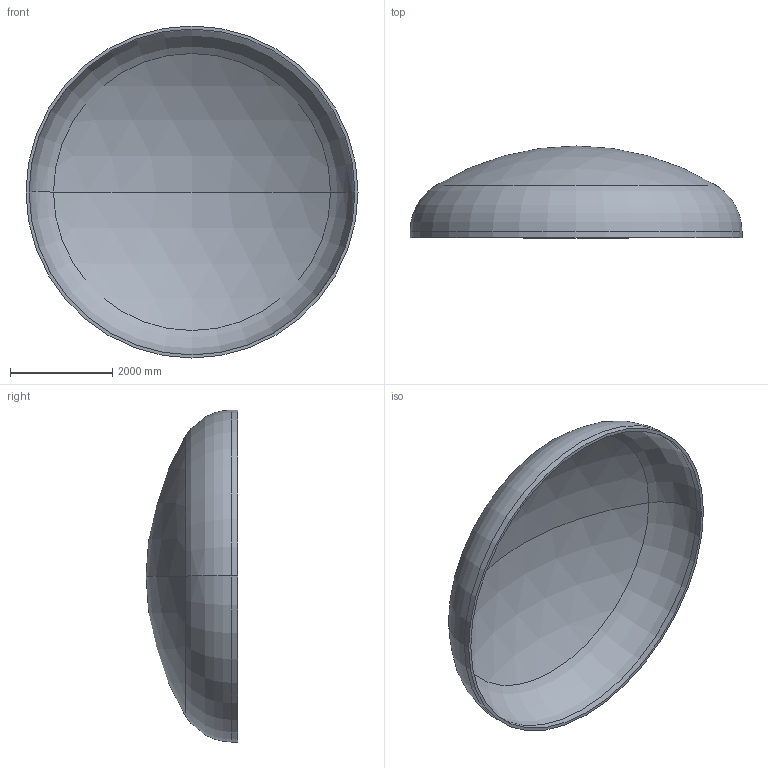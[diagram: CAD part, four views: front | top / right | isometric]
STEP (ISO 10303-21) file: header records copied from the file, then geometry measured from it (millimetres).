
FILE_DESCRIPTION (( 'STEP AP203' ), '1' );
FILE_NAME ('DIN 28013 Korbbogenform_-_Boden DIN 28013 - 6500 x 120 - I - s=60.step', '2016-07-04T10:42:43', ( '' ), ( '' ), 'SwSTEP 2.0', 'SolidWorks 2013', '' );
FILE_SCHEMA (( 'CONFIG_CONTROL_DESIGN' ));
Length unit declared in the file: millimetre
Products named in the file (1): DIN 28013 Korbbogenform_-_Boden DIN 28013 - 6500 x 120 - I - s=60
Bounding box: 6500 x 1796.16 x 6500 mm (x, y, z)
Volume: 2869168129.9 mm3; surface area: 96860352.1 mm2
Topology: 1 solids, 1 shells, 13 faces, 24 edges, 14 vertices
Faces by surface type: torus 4, cylinder 4, sphere 4, plane 1
Entity records: 407 total; most frequent: DIRECTION 72, CARTESIAN_POINT 52, ORIENTED_EDGE 48, AXIS2_PLACEMENT_3D 34, EDGE_CURVE 24, CIRCLE 20, VERTEX_POINT 14, EDGE_LOOP 14
